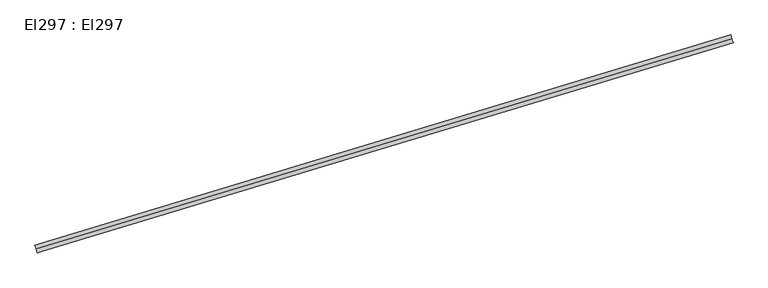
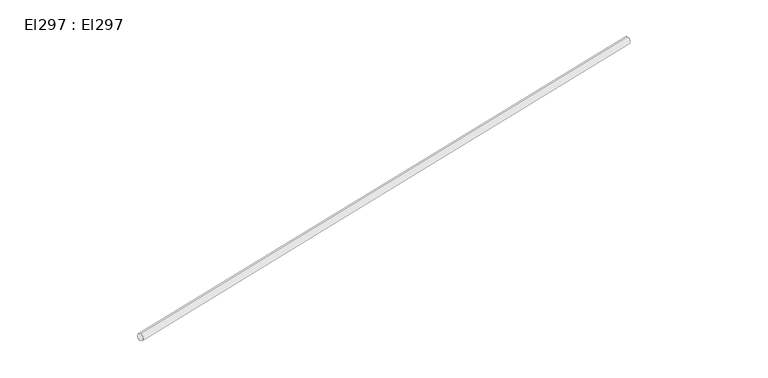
"""IFC4 building model written with IfcOpenShell, lengths in millimetres: cable carrier segment geometry, El297 : El297."""

from ifc_helpers import new_model, si_unit, point, frame, frame_2d, origin, place, context, project, spatial, circle_curve, trimmed, segment, composite_curve, outline, extrude, source, transform, mapped, element, save


def el297_el297_15eeb6a2(model_context):
    return source(origin(), model_context, "Body", "SweptSolid", [
        extrude(outline(composite_curve([segment(trimmed(circle_curve(frame_2d((0.0, -9.5)), 9.5), [point((0.0, -19.0))], [point((0.0, 0.0))], False, "CARTESIAN"), True, "CONTINUOUS"), segment(trimmed(circle_curve(frame_2d((0.0, -9.5)), 9.5), [point((0.0, 0.0))], [point((0.0, -19.0))], False, "CARTESIAN"), True, "CONTINUOUS")], self_intersect=False)), frame((16991.939, 14280.257, 2959.5), z_axis=(0.9573058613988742, 0.28907695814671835, 0.0), x_axis=(-0.28907695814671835, 0.9573058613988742, 0.0)), (0.0, 0.0, 1.0), 1681.51),
    ])


if __name__ == "__main__":
    model = new_model("IFC4")
    model_context = context("Model", 3, world=origin())
    ifc_project = project(units=[si_unit("LENGTHUNIT", "METRE", prefix="MILLI")], contexts=[model_context])
    site = spatial("IfcSite", under=ifc_project)
    building = spatial("IfcBuilding", under=site)
    placement = place(None, origin())
    el297_el297_shape = el297_el297_15eeb6a2(model_context)
    element("IfcCableCarrierSegment", 1, ObjectType="El297 : El297", at=placement, inside=building, context=model_context, shape_type="MappedRepresentation", body=[
        mapped(el297_el297_shape, transform((0.0, 0.0, 0.0), x_axis=(1.0, 0.0, 0.0), y_axis=(0.0, 1.0, 0.0), z_axis=(0.0, 0.0, 1.0))),
    ])
    save(model, "model.ifc")
